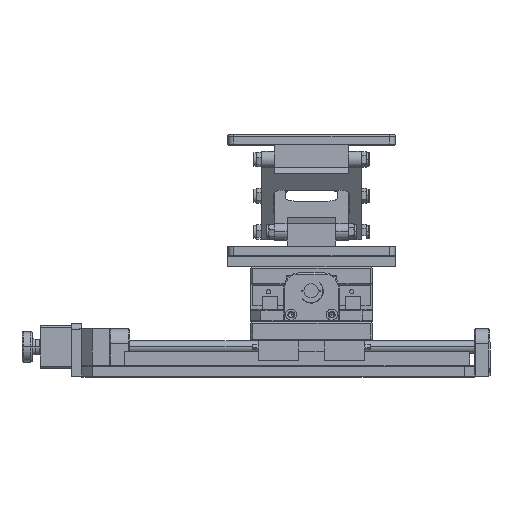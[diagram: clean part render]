
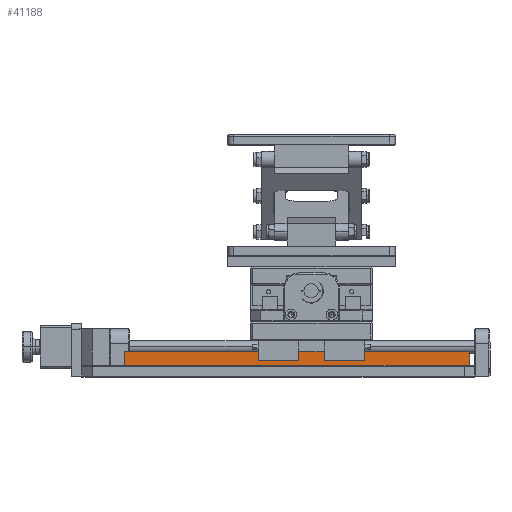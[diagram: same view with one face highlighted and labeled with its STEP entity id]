
A CAD part, top view. The second image highlights one B-rep face of the part: STEP entity #41188.
In plain terms, the highlighted planar face has unit normal (0, 0, 1).
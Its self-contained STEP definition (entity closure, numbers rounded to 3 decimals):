
#16 = DIRECTION ( 'NONE',  ( 1., 0., 0. ) ) ;
#162 = CARTESIAN_POINT ( 'NONE',  ( 287.624, -44.22, 55.446 ) ) ;
#210 = VECTOR ( 'NONE', #16, 1000. ) ;
#1236 = DIRECTION ( 'NONE',  ( 1., 0., 0. ) ) ;
#2738 = CARTESIAN_POINT ( 'NONE',  ( -52.376, -44.22, 55.446 ) ) ;
#5166 = ORIENTED_EDGE ( 'NONE', *, *, #33994, .F. ) ;
#5656 = VERTEX_POINT ( 'NONE', #44403 ) ;
#5736 = CARTESIAN_POINT ( 'NONE',  ( -52.376, -52.72, 55.446 ) ) ;
#5954 = VERTEX_POINT ( 'NONE', #26367 ) ;
#7572 = ORIENTED_EDGE ( 'NONE', *, *, #16668, .T. ) ;
#10659 = VECTOR ( 'NONE', #36755, 1000. ) ;
#11091 = VECTOR ( 'NONE', #49991, 1000. ) ;
#11837 = VECTOR ( 'NONE', #66898, 1000. ) ;
#12333 = ORIENTED_EDGE ( 'NONE', *, *, #27535, .F. ) ;
#12489 = AXIS2_PLACEMENT_3D ( 'NONE', #73393, #68364, #17362 ) ;
#13724 = LINE ( 'NONE', #2738, #10659 ) ;
#14219 = CARTESIAN_POINT ( 'NONE',  ( 184.302, -44.22, 55.446 ) ) ;
#15022 = EDGE_CURVE ( 'NONE', #47113, #5954, #17073, .T. ) ;
#15619 = VECTOR ( 'NONE', #44033, 1000. ) ;
#15992 = LINE ( 'NONE', #72518, #15619 ) ;
#16668 = EDGE_CURVE ( 'NONE', #59378, #72554, #58099, .T. ) ;
#17073 = LINE ( 'NONE', #55992, #68877 ) ;
#17274 = VECTOR ( 'NONE', #1236, 1000. ) ;
#17362 = DIRECTION ( 'NONE',  ( -1., 0., 0. ) ) ;
#18642 = VECTOR ( 'NONE', #67284, 1000. ) ;
#18820 = VECTOR ( 'NONE', #69707, 1000. ) ;
#18842 = EDGE_CURVE ( 'NONE', #57817, #66102, #53647, .T. ) ;
#18950 = LINE ( 'NONE', #66153, #18820 ) ;
#20220 = FACE_OUTER_BOUND ( 'NONE', #42311, .T. ) ;
#20633 = VECTOR ( 'NONE', #23483, 1000. ) ;
#21152 = LINE ( 'NONE', #69644, #53417 ) ;
#21352 = EDGE_CURVE ( 'NONE', #62095, #51617, #13724, .T. ) ;
#23191 = LINE ( 'NONE', #29176, #20633 ) ;
#23483 = DIRECTION ( 'NONE',  ( 1., 0., 0. ) ) ;
#24363 = VERTEX_POINT ( 'NONE', #50892 ) ;
#26367 = CARTESIAN_POINT ( 'NONE',  ( 144.202, -52.72, 55.446 ) ) ;
#27085 = ORIENTED_EDGE ( 'NONE', *, *, #52327, .F. ) ;
#27449 = CARTESIAN_POINT ( 'NONE',  ( 119.302, -44.22, 55.446 ) ) ;
#27535 = EDGE_CURVE ( 'NONE', #34674, #24363, #63073, .T. ) ;
#29176 = CARTESIAN_POINT ( 'NONE',  ( -52.376, -44.22, 55.446 ) ) ;
#29182 = ORIENTED_EDGE ( 'NONE', *, *, #15022, .F. ) ;
#29596 = ORIENTED_EDGE ( 'NONE', *, *, #50357, .F. ) ;
#29764 = CARTESIAN_POINT ( 'NONE',  ( -52.376, -44.22, 55.446 ) ) ;
#30686 = EDGE_CURVE ( 'NONE', #5656, #47113, #23191, .T. ) ;
#31180 = ORIENTED_EDGE ( 'NONE', *, *, #64306, .T. ) ;
#32137 = CARTESIAN_POINT ( 'NONE',  ( 144.202, -44.22, 55.446 ) ) ;
#33994 = EDGE_CURVE ( 'NONE', #51617, #34674, #21152, .T. ) ;
#34186 = CARTESIAN_POINT ( 'NONE',  ( -52.376, -57.22, 55.446 ) ) ;
#34674 = VERTEX_POINT ( 'NONE', #60501 ) ;
#35234 = CARTESIAN_POINT ( 'NONE',  ( -52.376, -52.72, 55.446 ) ) ;
#36755 = DIRECTION ( 'NONE',  ( 1., 0., 0. ) ) ;
#38522 = CARTESIAN_POINT ( 'NONE',  ( 184.302, -44.22, 55.446 ) ) ;
#40004 = ORIENTED_EDGE ( 'NONE', *, *, #30686, .F. ) ;
#40027 = VECTOR ( 'NONE', #43262, 1000. ) ;
#41188 = ADVANCED_FACE ( 'NONE', ( #20220 ), #56824, .F. ) ;
#41434 = LINE ( 'NONE', #43602, #40027 ) ;
#42311 = EDGE_LOOP ( 'NONE', ( #5166, #58812, #29596, #31180, #7572, #60201, #52714, #71494, #29182, #40004, #27085, #12333 ) ) ;
#43262 = DIRECTION ( 'NONE',  ( 1., 0., 0. ) ) ;
#43602 = CARTESIAN_POINT ( 'NONE',  ( -52.376, -44.22, 55.446 ) ) ;
#44033 = DIRECTION ( 'NONE',  ( 1., 0., 0. ) ) ;
#44403 = CARTESIAN_POINT ( 'NONE',  ( 119.302, -44.22, 55.446 ) ) ;
#47113 = VERTEX_POINT ( 'NONE', #32137 ) ;
#47555 = CARTESIAN_POINT ( 'NONE',  ( 287.624, -57.22, 55.446 ) ) ;
#49991 = DIRECTION ( 'NONE',  ( 0., 1., 0. ) ) ;
#50357 = EDGE_CURVE ( 'NONE', #65751, #62095, #18950, .T. ) ;
#50892 = CARTESIAN_POINT ( 'NONE',  ( 119.302, -52.72, 55.446 ) ) ;
#51617 = VERTEX_POINT ( 'NONE', #60048 ) ;
#52327 = EDGE_CURVE ( 'NONE', #24363, #5656, #60482, .T. ) ;
#52714 = ORIENTED_EDGE ( 'NONE', *, *, #18842, .F. ) ;
#53417 = VECTOR ( 'NONE', #58337, 1000. ) ;
#53647 = LINE ( 'NONE', #38522, #11837 ) ;
#53836 = CARTESIAN_POINT ( 'NONE',  ( 287.624, -44.22, 55.446 ) ) ;
#55916 = DIRECTION ( 'NONE',  ( 0., -1., 0. ) ) ;
#55992 = CARTESIAN_POINT ( 'NONE',  ( 144.202, -44.22, 55.446 ) ) ;
#56824 = PLANE ( 'NONE',  #12489 ) ;
#57817 = VERTEX_POINT ( 'NONE', #59603 ) ;
#58099 = LINE ( 'NONE', #162, #18642 ) ;
#58337 = DIRECTION ( 'NONE',  ( 0., -1., 0. ) ) ;
#58812 = ORIENTED_EDGE ( 'NONE', *, *, #21352, .F. ) ;
#59378 = VERTEX_POINT ( 'NONE', #47555 ) ;
#59603 = CARTESIAN_POINT ( 'NONE',  ( 184.302, -52.72, 55.446 ) ) ;
#60048 = CARTESIAN_POINT ( 'NONE',  ( 79.202, -44.22, 55.446 ) ) ;
#60201 = ORIENTED_EDGE ( 'NONE', *, *, #70937, .F. ) ;
#60482 = LINE ( 'NONE', #27449, #11091 ) ;
#60501 = CARTESIAN_POINT ( 'NONE',  ( 79.202, -52.72, 55.446 ) ) ;
#62095 = VERTEX_POINT ( 'NONE', #29764 ) ;
#63073 = LINE ( 'NONE', #35234, #17274 ) ;
#64306 = EDGE_CURVE ( 'NONE', #65751, #59378, #15992, .T. ) ;
#65751 = VERTEX_POINT ( 'NONE', #34186 ) ;
#65981 = LINE ( 'NONE', #5736, #210 ) ;
#66102 = VERTEX_POINT ( 'NONE', #14219 ) ;
#66153 = CARTESIAN_POINT ( 'NONE',  ( -52.376, -44.22, 55.446 ) ) ;
#66898 = DIRECTION ( 'NONE',  ( 0., 1., 0. ) ) ;
#67284 = DIRECTION ( 'NONE',  ( 0., 1., 0. ) ) ;
#67661 = EDGE_CURVE ( 'NONE', #5954, #57817, #65981, .T. ) ;
#68364 = DIRECTION ( 'NONE',  ( 0., 0., -1. ) ) ;
#68877 = VECTOR ( 'NONE', #55916, 1000. ) ;
#69644 = CARTESIAN_POINT ( 'NONE',  ( 79.202, -44.22, 55.446 ) ) ;
#69707 = DIRECTION ( 'NONE',  ( 0., 1., 0. ) ) ;
#70937 = EDGE_CURVE ( 'NONE', #66102, #72554, #41434, .T. ) ;
#71494 = ORIENTED_EDGE ( 'NONE', *, *, #67661, .F. ) ;
#72518 = CARTESIAN_POINT ( 'NONE',  ( -94.376, -57.22, 55.446 ) ) ;
#72554 = VERTEX_POINT ( 'NONE', #53836 ) ;
#73393 = CARTESIAN_POINT ( 'NONE',  ( -52.376, -44.22, 55.446 ) ) ;
